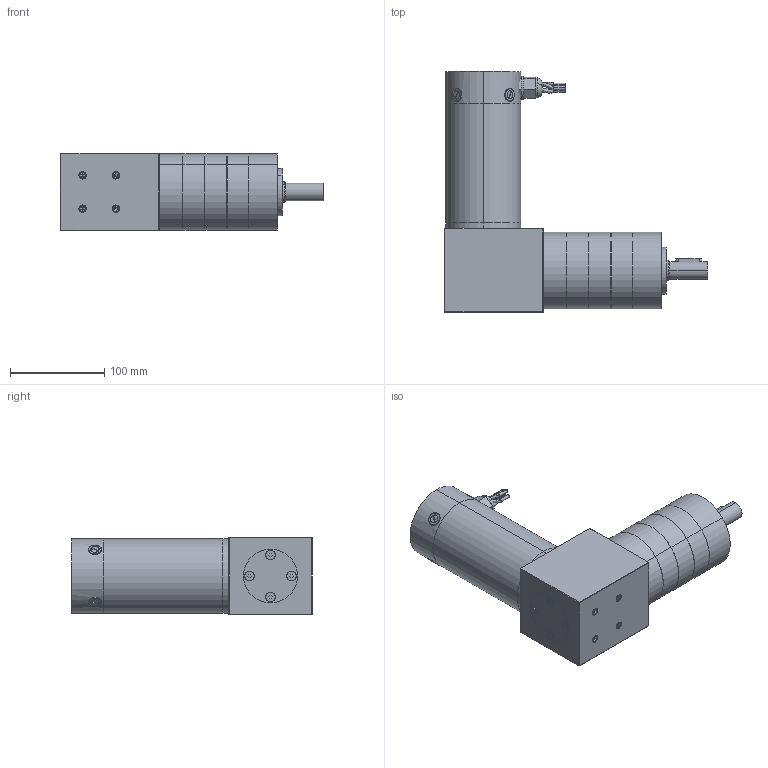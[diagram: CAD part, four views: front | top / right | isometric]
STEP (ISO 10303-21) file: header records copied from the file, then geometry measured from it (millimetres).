
FILE_DESCRIPTION (( 'STEP AP203' ), '1' );
FILE_NAME ('d33655agra4.step', '2018-12-07T19:40:49', ( '' ), ( '' ), 'SwSTEP 2.0', 'SolidWorks 2017', '' );
FILE_SCHEMA (( 'CONFIG_CONTROL_DESIGN' ));
Length unit declared in the file: inch
Products named in the file (1): d33655agra4
Bounding box: 278.98 x 255.27 x 82.55 mm (x, y, z)
Volume: 2263702.3 mm3; surface area: 234738.7 mm2
Topology: 29 solids, 29 shells, 1247 faces, 3123 edges, 1979 vertices
Faces by surface type: cylinder 719, plane 364, cone 101, torus 39, bspline 16, sphere 8
Entity records: 57069 total; most frequent: CARTESIAN_POINT 29808, ORIENTED_EDGE 6198, DIRECTION 5276, EDGE_CURVE 3099, AXIS2_PLACEMENT_3D 1991, VERTEX_POINT 1979, EDGE_LOOP 1352, LINE 1294
